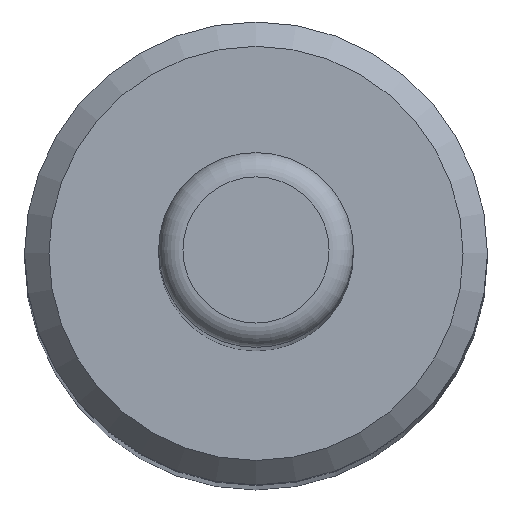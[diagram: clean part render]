
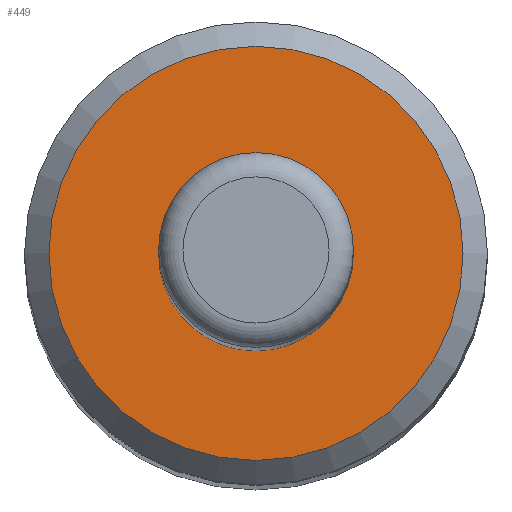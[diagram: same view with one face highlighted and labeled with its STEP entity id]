
A CAD part, top view. The second image highlights one B-rep face of the part: STEP entity #449.
In plain terms, the highlighted planar face has unit normal (0, 0, 1).
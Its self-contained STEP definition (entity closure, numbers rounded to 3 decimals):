
#429 = VERTEX_POINT('',#430);
#430 = CARTESIAN_POINT('',(8.5,0.,121.));
#438 = EDGE_CURVE('',#429,#429,#439,.T.);
#439 = CIRCLE('',#440,8.5);
#440 = AXIS2_PLACEMENT_3D('',#441,#442,#443);
#441 = CARTESIAN_POINT('',(0.,0.,121.));
#442 = DIRECTION('',(0.,0.,1.));
#443 = DIRECTION('',(1.,0.,0.));
#449 = ADVANCED_FACE('',(#450),#453,.T.);
#450 = FACE_BOUND('',#451,.T.);
#451 = EDGE_LOOP('',(#452));
#452 = ORIENTED_EDGE('',*,*,#438,.T.);
#453 = PLANE('',#454);
#454 = AXIS2_PLACEMENT_3D('',#455,#456,#457);
#455 = CARTESIAN_POINT('',(0.,0.,121.));
#456 = DIRECTION('',(0.,0.,1.));
#457 = DIRECTION('',(1.,0.,0.));
